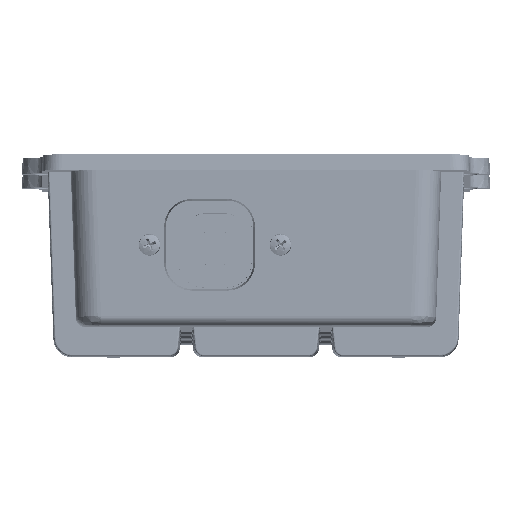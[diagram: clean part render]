
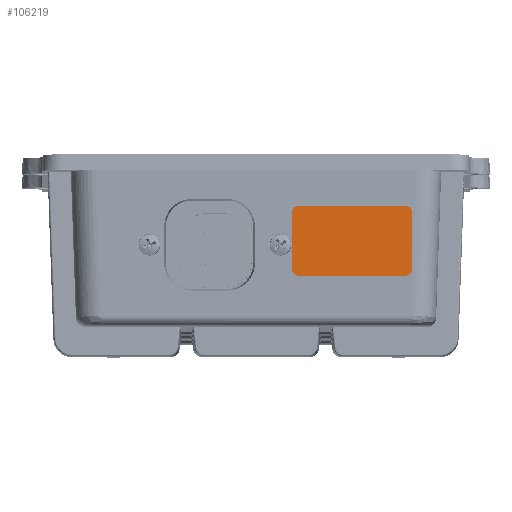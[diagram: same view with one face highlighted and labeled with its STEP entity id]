
A CAD part, top view. The second image highlights one B-rep face of the part: STEP entity #106219.
In plain terms, the highlighted planar face has unit normal (0, 0, 1) as drawn and (0, -1, 0) by its records, which use the part's own axes.
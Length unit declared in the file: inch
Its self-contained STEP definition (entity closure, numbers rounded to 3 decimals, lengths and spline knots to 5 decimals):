
#1646 = VERTEX_POINT ( 'NONE', #173236 ) ;
#7085 = VECTOR ( 'NONE', #190381, 39.37008 ) ;
#7707 = EDGE_CURVE ( 'NONE', #150123, #195245, #105553, .T. ) ;
#13470 = ORIENTED_EDGE ( 'NONE', *, *, #83295, .F. ) ;
#13844 = DIRECTION ( 'NONE',  ( 0., 0., -1. ) ) ;
#14650 = ORIENTED_EDGE ( 'NONE', *, *, #62379, .F. ) ;
#23384 = DIRECTION ( 'NONE',  ( 0., 1., 0. ) ) ;
#24150 = CARTESIAN_POINT ( 'NONE',  ( 0.3445, 0., -0.75 ) ) ;
#24956 = AXIS2_PLACEMENT_3D ( 'NONE', #79135, #128272, #142965 ) ;
#25664 = DIRECTION ( 'NONE',  ( 0., 1., 0. ) ) ;
#30115 = LINE ( 'NONE', #43814, #7085 ) ;
#34716 = CARTESIAN_POINT ( 'NONE',  ( 0.4375, 0., 0.657 ) ) ;
#43814 = CARTESIAN_POINT ( 'NONE',  ( -0.3445, 0., 0.75 ) ) ;
#44130 = EDGE_CURVE ( 'NONE', #175030, #75710, #44973, .T. ) ;
#44973 = CIRCLE ( 'NONE', #24956, 0.093 ) ;
#47356 = CARTESIAN_POINT ( 'NONE',  ( -0.3445, 0., -0.75 ) ) ;
#52190 = CARTESIAN_POINT ( 'NONE',  ( -0.3445, 0., 0.657 ) ) ;
#55013 = CARTESIAN_POINT ( 'NONE',  ( -0.3445, 0., -0.657 ) ) ;
#55503 = EDGE_CURVE ( 'NONE', #93959, #150123, #168693, .T. ) ;
#61009 = PLANE ( 'NONE',  #207142 ) ;
#62379 = EDGE_CURVE ( 'NONE', #203388, #175030, #30115, .T. ) ;
#64067 = DIRECTION ( 'NONE',  ( 0., -1., 0. ) ) ;
#71337 = DIRECTION ( 'NONE',  ( -1., 0., 0. ) ) ;
#74105 = VERTEX_POINT ( 'NONE', #156340 ) ;
#75545 = CARTESIAN_POINT ( 'NONE',  ( -0.3445, 0., 0.75 ) ) ;
#75710 = VERTEX_POINT ( 'NONE', #80053 ) ;
#79135 = CARTESIAN_POINT ( 'NONE',  ( 0.3445, 0., 0.657 ) ) ;
#80053 = CARTESIAN_POINT ( 'NONE',  ( 0.4375, 0., 0.657 ) ) ;
#83295 = EDGE_CURVE ( 'NONE', #75710, #74105, #191877, .T. ) ;
#83781 = LINE ( 'NONE', #181221, #138919 ) ;
#93959 = VERTEX_POINT ( 'NONE', #108738 ) ;
#98453 = CARTESIAN_POINT ( 'NONE',  ( -0.4375, 0., -0.657 ) ) ;
#103170 = DIRECTION ( 'NONE',  ( 0., 0., -1. ) ) ;
#103704 = CARTESIAN_POINT ( 'NONE',  ( 0.3445, 0., 0.75 ) ) ;
#105098 = DIRECTION ( 'NONE',  ( 1., 0., 0. ) ) ;
#105553 = CIRCLE ( 'NONE', #182557, 0.093 ) ;
#106219 = ADVANCED_FACE ( 'NONE', ( #186730 ), #61009, .T. ) ;
#108738 = CARTESIAN_POINT ( 'NONE',  ( 0.3445, 0., -0.75 ) ) ;
#112157 = EDGE_CURVE ( 'NONE', #74105, #93959, #154671, .T. ) ;
#121391 = AXIS2_PLACEMENT_3D ( 'NONE', #183682, #23384, #105098 ) ;
#125980 = VECTOR ( 'NONE', #13844, 39.37008 ) ;
#128272 = DIRECTION ( 'NONE',  ( 0., 1., 0. ) ) ;
#131906 = DIRECTION ( 'NONE',  ( 0., 0., 1. ) ) ;
#134524 = DIRECTION ( 'NONE',  ( 0., 1., 0. ) ) ;
#134958 = ORIENTED_EDGE ( 'NONE', *, *, #44130, .F. ) ;
#137569 = VECTOR ( 'NONE', #71337, 39.37008 ) ;
#138919 = VECTOR ( 'NONE', #131906, 39.37008 ) ;
#140037 = ORIENTED_EDGE ( 'NONE', *, *, #166960, .F. ) ;
#142965 = DIRECTION ( 'NONE',  ( 0., 0., 1. ) ) ;
#143611 = CARTESIAN_POINT ( 'NONE',  ( 0., 0., 0. ) ) ;
#146709 = DIRECTION ( 'NONE',  ( 0., 0., -1. ) ) ;
#150123 = VERTEX_POINT ( 'NONE', #47356 ) ;
#150343 = ORIENTED_EDGE ( 'NONE', *, *, #112157, .F. ) ;
#154671 = CIRCLE ( 'NONE', #121391, 0.093 ) ;
#156340 = CARTESIAN_POINT ( 'NONE',  ( 0.4375, 0., -0.657 ) ) ;
#160929 = ORIENTED_EDGE ( 'NONE', *, *, #7707, .F. ) ;
#161102 = ORIENTED_EDGE ( 'NONE', *, *, #193792, .F. ) ;
#166960 = EDGE_CURVE ( 'NONE', #1646, #203388, #189458, .T. ) ;
#168693 = LINE ( 'NONE', #24150, #137569 ) ;
#173236 = CARTESIAN_POINT ( 'NONE',  ( -0.4375, 0., 0.657 ) ) ;
#175030 = VERTEX_POINT ( 'NONE', #103704 ) ;
#176699 = EDGE_LOOP ( 'NONE', ( #14650, #140037, #161102, #160929, #199711, #150343, #13470, #134958 ) ) ;
#181221 = CARTESIAN_POINT ( 'NONE',  ( -0.4375, 0., -0.657 ) ) ;
#182557 = AXIS2_PLACEMENT_3D ( 'NONE', #55013, #134524, #103170 ) ;
#183682 = CARTESIAN_POINT ( 'NONE',  ( 0.3445, 0., -0.657 ) ) ;
#186730 = FACE_OUTER_BOUND ( 'NONE', #176699, .T. ) ;
#189458 = CIRCLE ( 'NONE', #196175, 0.093 ) ;
#190381 = DIRECTION ( 'NONE',  ( 1., 0., 0. ) ) ;
#191877 = LINE ( 'NONE', #34716, #125980 ) ;
#193792 = EDGE_CURVE ( 'NONE', #195245, #1646, #83781, .T. ) ;
#194605 = DIRECTION ( 'NONE',  ( -1., 0., 0. ) ) ;
#195245 = VERTEX_POINT ( 'NONE', #98453 ) ;
#196175 = AXIS2_PLACEMENT_3D ( 'NONE', #52190, #25664, #194605 ) ;
#199711 = ORIENTED_EDGE ( 'NONE', *, *, #55503, .F. ) ;
#203388 = VERTEX_POINT ( 'NONE', #75545 ) ;
#207142 = AXIS2_PLACEMENT_3D ( 'NONE', #143611, #64067, #146709 ) ;
